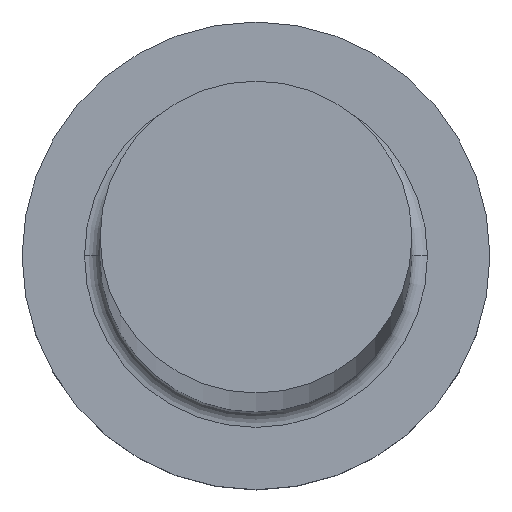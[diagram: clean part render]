
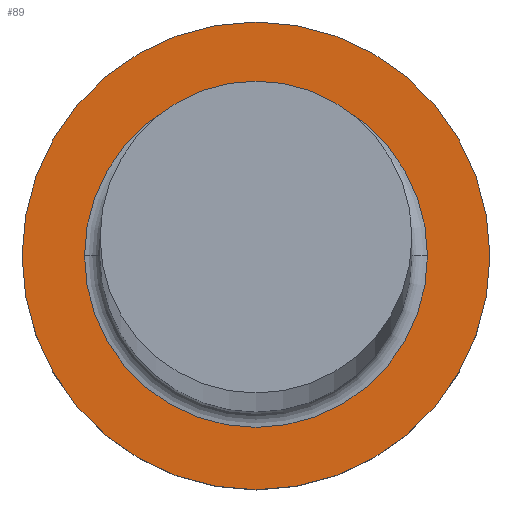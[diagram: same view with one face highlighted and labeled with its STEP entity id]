
A CAD part, top view. The second image highlights one B-rep face of the part: STEP entity #89.
In plain terms, the highlighted planar face has unit normal (0, 0, 1).
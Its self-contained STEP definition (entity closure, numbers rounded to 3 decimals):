
#9 = CARTESIAN_POINT ( 'NONE',  ( -7.5, 0., 4. ) ) ;
#12 = VERTEX_POINT ( 'NONE', #181 ) ;
#26 = VERTEX_POINT ( 'NONE', #9 ) ;
#28 = EDGE_LOOP ( 'NONE', ( #179, #157 ) ) ;
#33 = CARTESIAN_POINT ( 'NONE',  ( 0., 0., 4. ) ) ;
#35 = CARTESIAN_POINT ( 'NONE',  ( 7.5, 0., 4. ) ) ;
#46 = CIRCLE ( 'NONE', #161, 7.5 ) ;
#63 = ORIENTED_EDGE ( 'NONE', *, *, #173, .T. ) ;
#64 = EDGE_CURVE ( 'NONE', #26, #225, #46, .T. ) ;
#66 = AXIS2_PLACEMENT_3D ( 'NONE', #207, #93, #247 ) ;
#76 = CIRCLE ( 'NONE', #246, 7.5 ) ;
#88 = AXIS2_PLACEMENT_3D ( 'NONE', #162, #113, #249 ) ;
#89 = ADVANCED_FACE ( 'NONE', ( #177, #227 ), #158, .F. ) ;
#93 = DIRECTION ( 'NONE',  ( 0., 0., -1. ) ) ;
#94 = DIRECTION ( 'NONE',  ( 0., 0., -1. ) ) ;
#95 = EDGE_CURVE ( 'NONE', #225, #26, #76, .T. ) ;
#103 = CIRCLE ( 'NONE', #66, 5.5 ) ;
#107 = CIRCLE ( 'NONE', #88, 5.5 ) ;
#113 = DIRECTION ( 'NONE',  ( 0., 0., -1. ) ) ;
#140 = DIRECTION ( 'NONE',  ( 0., 0., -1. ) ) ;
#146 = EDGE_CURVE ( 'NONE', #152, #12, #107, .T. ) ;
#152 = VERTEX_POINT ( 'NONE', #226 ) ;
#157 = ORIENTED_EDGE ( 'NONE', *, *, #95, .F. ) ;
#158 = PLANE ( 'NONE',  #260 ) ;
#161 = AXIS2_PLACEMENT_3D ( 'NONE', #205, #267, #232 ) ;
#162 = CARTESIAN_POINT ( 'NONE',  ( 0., 0., 4. ) ) ;
#166 = DIRECTION ( 'NONE',  ( -1., 0., 0. ) ) ;
#173 = EDGE_CURVE ( 'NONE', #12, #152, #103, .T. ) ;
#177 = FACE_BOUND ( 'NONE', #218, .T. ) ;
#179 = ORIENTED_EDGE ( 'NONE', *, *, #64, .F. ) ;
#181 = CARTESIAN_POINT ( 'NONE',  ( 5.5, 0., 4. ) ) ;
#205 = CARTESIAN_POINT ( 'NONE',  ( 0., 0., 4. ) ) ;
#206 = DIRECTION ( 'NONE',  ( -1., 0., 0. ) ) ;
#207 = CARTESIAN_POINT ( 'NONE',  ( 0., 0., 4. ) ) ;
#218 = EDGE_LOOP ( 'NONE', ( #243, #63 ) ) ;
#225 = VERTEX_POINT ( 'NONE', #254 ) ;
#226 = CARTESIAN_POINT ( 'NONE',  ( -5.5, 0., 4. ) ) ;
#227 = FACE_OUTER_BOUND ( 'NONE', #28, .T. ) ;
#232 = DIRECTION ( 'NONE',  ( -1., 0., 0. ) ) ;
#243 = ORIENTED_EDGE ( 'NONE', *, *, #146, .T. ) ;
#246 = AXIS2_PLACEMENT_3D ( 'NONE', #33, #94, #166 ) ;
#247 = DIRECTION ( 'NONE',  ( -1., 0., 0. ) ) ;
#249 = DIRECTION ( 'NONE',  ( -1., 0., 0. ) ) ;
#254 = CARTESIAN_POINT ( 'NONE',  ( 7.5, 0., 4. ) ) ;
#260 = AXIS2_PLACEMENT_3D ( 'NONE', #35, #140, #206 ) ;
#267 = DIRECTION ( 'NONE',  ( 0., 0., -1. ) ) ;
